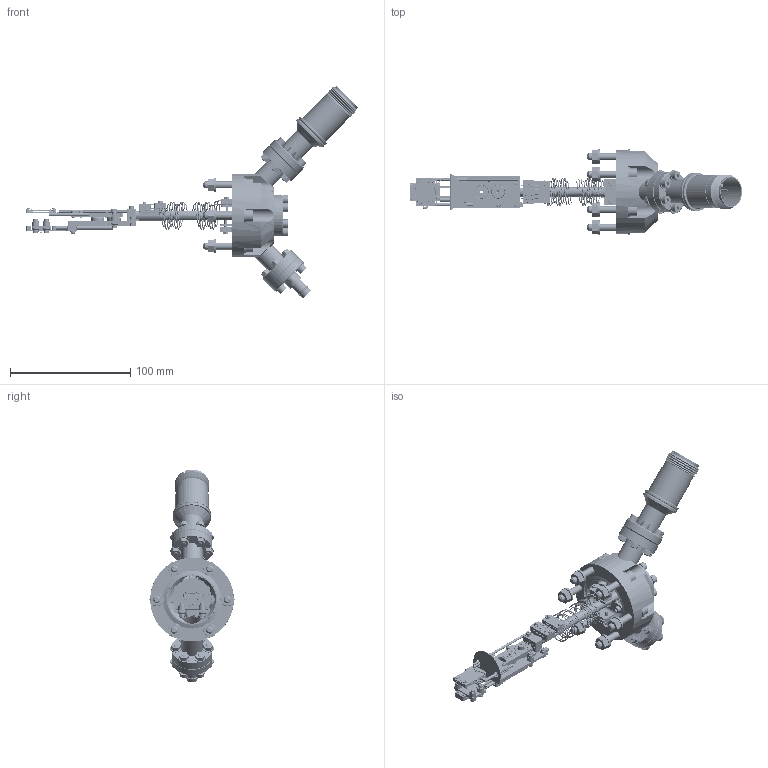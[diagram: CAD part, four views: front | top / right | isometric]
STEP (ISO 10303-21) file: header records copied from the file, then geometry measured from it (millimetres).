
FILE_DESCRIPTION(('Confidential','CAx-IF Rec.Pracs.--- Model Styling and Organization---1.2---2011-12-15'),'2;1');
FILE_NAME('W:\KONSTRUKTION\PRODUCTS\HS\HSAS\HSASOM\HSASOM40\HSASOM40(EB)\Step Files\HSASOM40(EB)-0171-0001_Rev_D_20230616.stp','2023-06-16T14:19:24+00:00',('none'),('Ferrovac AG'),'CATIA Version 5 Release 21 SP 6 (IN-10)','CATIA V5 STEP AP214','PROPERTY OF FERROVAC AG');
FILE_SCHEMA(('AUTOMOTIVE_DESIGN { 1 0 10303 214 1 1 1 1 }'));
Products named in the file (104): HSASOM40(EB); MPCF40X3CF16IA; MainBody_60374; TFCF16T-1_60374; ADHSASCF16INSERT-0122; 24651; 24650-0122.3; 60554; HSOMEB; HSEBBODY; 254; 473; 624; 3023; 3024; 3026; 3055; 10651; 23804; 24173; 17103010; 17102010; 18102004; 18102006; 18102008; 18102012; 18302004; 25102000; 26102000; 32103000; HSEBHEAT; 25200; HSEEBHEATO12; 25201; 10658; 23808; 40017-0050; 18101604; 18302010; 26302000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
Assembly tree (212 placements, depth 6):
  HSASOM40(EB)
    MPCF40X3CF16IA
      MainBody_60374
      TFCF16T-1_60374  x2
    ADHSASCF16INSERT-0122
      24651
      24650-0122.3
      60554
    HSOMEB
      HSEBBODY
        254  x3
        473
        624
        3023
        3024
        3026
        3055
        10651  x4
        23804
        24173
        17103010
        17102010
        18102004
        18102006
        18102008  x2
        18102012
        18302004  x4
        25102000  x2
        26102000  x9
        32103000  x2
      HSEBHEAT
        25200
        HSEEBHEATO12
          473  x4
          25201
          624  x4
          10658  x2
          23808
          40017-0050
          18101604  x4
          18302010  x4
          25102000  x4
          26102000  x8
          26302000  x8
          26101600  x4
      HSEBRECOMO12
        RECOMHS
          SHOM
            41006(MMMM)
          3401
          23802  x2
          23803  x2
          18401403  x4
        641  x2
        3403
        40019-0062
        18401403  x2
        wire_P_TC_K (Part 62216)
    EFCF16SHV5(GSE)
      60434
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Bounding box: 275.72 x 70.7 x 176.68 mm (x, y, z)
Volume: 162981.5 mm3; surface area: 139646.9 mm2
Topology: 271 solids, 271 shells, 5427 faces, 12695 edges, 7979 vertices
Faces by surface type: cylinder 2293, plane 1830, cone 602, torus 512, bspline 180, extrusion 8, sphere 2
Entity records: 82548 total; most frequent: CARTESIAN_POINT 27341, ORIENTED_EDGE 11654, DIRECTION 9208, EDGE_CURVE 5827, AXIS2_PLACEMENT_3D 4661, VERTEX_POINT 3638, EDGE_LOOP 2933, CIRCLE 2513
